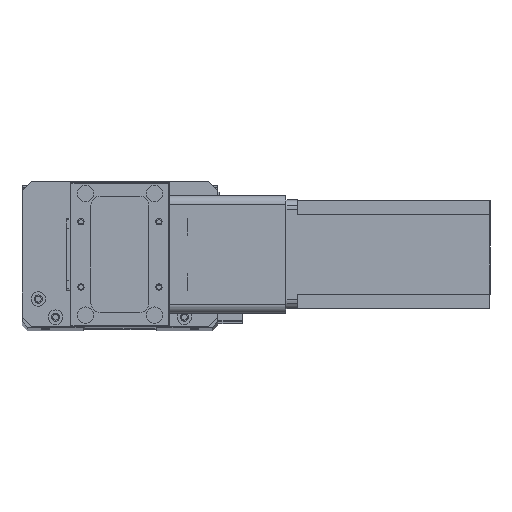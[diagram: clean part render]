
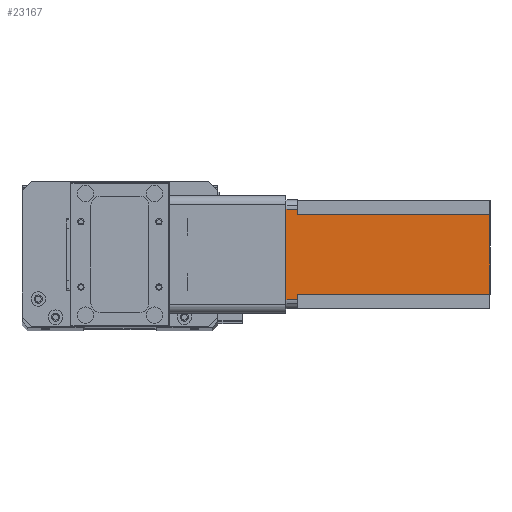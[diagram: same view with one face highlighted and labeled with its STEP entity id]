
A CAD part, top view. The second image highlights one B-rep face of the part: STEP entity #23167.
In plain terms, the highlighted planar face has unit normal (0, 0, 1) as drawn and (0, 1, 0) by its records, which use the part's own axes.
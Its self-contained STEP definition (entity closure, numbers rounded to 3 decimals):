
#758 = CARTESIAN_POINT ( 'NONE',  ( 0., 60., -112.5 ) ) ;
#1248 = EDGE_CURVE ( 'NONE', #12566, #12072, #10772, .T. ) ;
#1562 = LINE ( 'NONE', #20518, #12055 ) ;
#1598 = ORIENTED_EDGE ( 'NONE', *, *, #12695, .T. ) ;
#1870 = CARTESIAN_POINT ( 'NONE',  ( 55., 60., -112.5 ) ) ;
#2810 = ORIENTED_EDGE ( 'NONE', *, *, #1248, .F. ) ;
#3272 = DIRECTION ( 'NONE',  ( 0., 0., 1. ) ) ;
#4390 = EDGE_CURVE ( 'NONE', #12875, #12072, #13209, .T. ) ;
#5005 = CARTESIAN_POINT ( 'NONE',  ( 0., 60., 0. ) ) ;
#5040 = VECTOR ( 'NONE', #7120, 1000. ) ;
#5278 = CARTESIAN_POINT ( 'NONE',  ( 5., 60., -112.5 ) ) ;
#6818 = VERTEX_POINT ( 'NONE', #14465 ) ;
#6906 = EDGE_CURVE ( 'NONE', #9541, #16481, #24197, .T. ) ;
#7120 = DIRECTION ( 'NONE',  ( -1., 0., 0. ) ) ;
#7232 = FACE_OUTER_BOUND ( 'NONE', #21012, .T. ) ;
#7587 = CARTESIAN_POINT ( 'NONE',  ( 8., 60., -112.5 ) ) ;
#7630 = VECTOR ( 'NONE', #23793, 1000. ) ;
#9023 = PLANE ( 'NONE',  #16554 ) ;
#9541 = VERTEX_POINT ( 'NONE', #14598 ) ;
#9698 = DIRECTION ( 'NONE',  ( 0., 0., -1. ) ) ;
#9699 = CARTESIAN_POINT ( 'NONE',  ( 55., 60., 0. ) ) ;
#10104 = DIRECTION ( 'NONE',  ( 0., 0., 1. ) ) ;
#10273 = EDGE_CURVE ( 'NONE', #10419, #6818, #16231, .T. ) ;
#10419 = VERTEX_POINT ( 'NONE', #9699 ) ;
#10772 = LINE ( 'NONE', #7587, #21245 ) ;
#10776 = CARTESIAN_POINT ( 'NONE',  ( 8., 60., -6.5 ) ) ;
#10801 = ORIENTED_EDGE ( 'NONE', *, *, #4390, .T. ) ;
#10908 = LINE ( 'NONE', #1870, #16511 ) ;
#11128 = VERTEX_POINT ( 'NONE', #18532 ) ;
#11133 = DIRECTION ( 'NONE',  ( 0., 0., 1. ) ) ;
#11253 = CARTESIAN_POINT ( 'NONE',  ( 55., 60., -6.5 ) ) ;
#12055 = VECTOR ( 'NONE', #10104, 1000. ) ;
#12072 = VERTEX_POINT ( 'NONE', #15689 ) ;
#12566 = VERTEX_POINT ( 'NONE', #24986 ) ;
#12695 = EDGE_CURVE ( 'NONE', #12566, #11128, #17310, .T. ) ;
#12852 = LINE ( 'NONE', #5278, #22660 ) ;
#12875 = VERTEX_POINT ( 'NONE', #21816 ) ;
#13095 = ORIENTED_EDGE ( 'NONE', *, *, #18387, .F. ) ;
#13156 = CARTESIAN_POINT ( 'NONE',  ( 0., 60., -112.5 ) ) ;
#13209 = LINE ( 'NONE', #758, #7630 ) ;
#13984 = ORIENTED_EDGE ( 'NONE', *, *, #22712, .T. ) ;
#14465 = CARTESIAN_POINT ( 'NONE',  ( 5., 60., 0. ) ) ;
#14466 = ORIENTED_EDGE ( 'NONE', *, *, #10273, .F. ) ;
#14598 = CARTESIAN_POINT ( 'NONE',  ( 52., 60., -6.5 ) ) ;
#15689 = CARTESIAN_POINT ( 'NONE',  ( 8., 60., -112.5 ) ) ;
#16231 = LINE ( 'NONE', #5005, #5040 ) ;
#16481 = VERTEX_POINT ( 'NONE', #11253 ) ;
#16511 = VECTOR ( 'NONE', #16538, 1000. ) ;
#16538 = DIRECTION ( 'NONE',  ( 0., 0., -1. ) ) ;
#16554 = AXIS2_PLACEMENT_3D ( 'NONE', #13156, #23671, #11133 ) ;
#17310 = LINE ( 'NONE', #10776, #19288 ) ;
#18387 = EDGE_CURVE ( 'NONE', #12875, #9541, #1562, .T. ) ;
#18532 = CARTESIAN_POINT ( 'NONE',  ( 5., 60., -6.5 ) ) ;
#18972 = DIRECTION ( 'NONE',  ( 1., 0., 0. ) ) ;
#19242 = DIRECTION ( 'NONE',  ( -1., 0., 0. ) ) ;
#19288 = VECTOR ( 'NONE', #19242, 1000. ) ;
#20518 = CARTESIAN_POINT ( 'NONE',  ( 52., 60., -112.5 ) ) ;
#20852 = CARTESIAN_POINT ( 'NONE',  ( 52., 60., -6.5 ) ) ;
#21012 = EDGE_LOOP ( 'NONE', ( #14466, #21343, #25804, #13095, #10801, #2810, #1598, #13984 ) ) ;
#21245 = VECTOR ( 'NONE', #9698, 1000. ) ;
#21343 = ORIENTED_EDGE ( 'NONE', *, *, #22290, .T. ) ;
#21816 = CARTESIAN_POINT ( 'NONE',  ( 52., 60., -112.5 ) ) ;
#22290 = EDGE_CURVE ( 'NONE', #10419, #16481, #10908, .T. ) ;
#22660 = VECTOR ( 'NONE', #3272, 1000. ) ;
#22712 = EDGE_CURVE ( 'NONE', #11128, #6818, #12852, .T. ) ;
#23167 = ADVANCED_FACE ( 'NONE', ( #7232 ), #9023, .T. ) ;
#23545 = VECTOR ( 'NONE', #18972, 1000. ) ;
#23671 = DIRECTION ( 'NONE',  ( 0., 1., 0. ) ) ;
#23793 = DIRECTION ( 'NONE',  ( -1., 0., 0. ) ) ;
#24197 = LINE ( 'NONE', #20852, #23545 ) ;
#24986 = CARTESIAN_POINT ( 'NONE',  ( 8., 60., -6.5 ) ) ;
#25804 = ORIENTED_EDGE ( 'NONE', *, *, #6906, .F. ) ;
